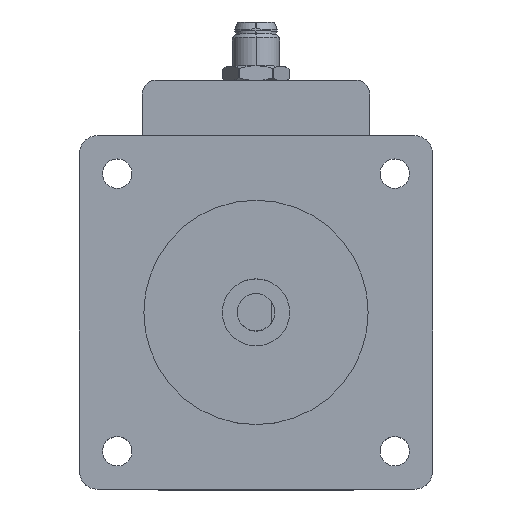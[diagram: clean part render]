
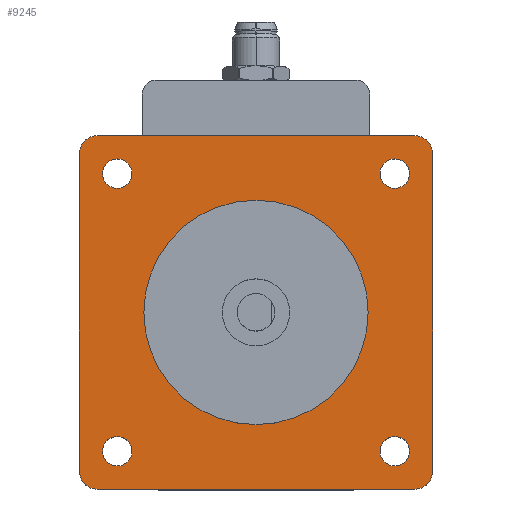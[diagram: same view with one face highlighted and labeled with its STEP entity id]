
A CAD part, top view. The second image highlights one B-rep face of the part: STEP entity #9245.
In plain terms, the highlighted planar face has unit normal (0, 0, 1).
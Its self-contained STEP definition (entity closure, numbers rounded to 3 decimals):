
#1168=VECTOR('',#12396,1.);
#1172=VECTOR('',#12405,1.);
#1175=VECTOR('',#12413,1.);
#1178=VECTOR('',#12421,1.);
#1728=LINE('',#17052,#1168);
#1732=LINE('',#17062,#1172);
#1735=LINE('',#17070,#1175);
#1738=LINE('',#17078,#1178);
#2534=VERTEX_POINT('',#17047);
#2535=VERTEX_POINT('',#17051);
#2536=VERTEX_POINT('',#17053);
#2537=VERTEX_POINT('',#17057);
#2538=VERTEX_POINT('',#17061);
#2539=VERTEX_POINT('',#17065);
#2540=VERTEX_POINT('',#17069);
#2541=VERTEX_POINT('',#17073);
#2542=VERTEX_POINT('',#17077);
#2543=VERTEX_POINT('',#17083);
#2544=VERTEX_POINT('',#17086);
#2545=VERTEX_POINT('',#17089);
#2546=VERTEX_POINT('',#17092);
#3128=CIRCLE('',#10187,19.05);
#3129=CIRCLE('',#10191,3.);
#3130=CIRCLE('',#10194,3.);
#3131=CIRCLE('',#10197,3.);
#3132=CIRCLE('',#10200,3.);
#3133=CIRCLE('',#10202,2.5);
#3134=CIRCLE('',#10204,2.5);
#3135=CIRCLE('',#10206,2.5);
#3136=CIRCLE('',#10208,2.5);
#4366=EDGE_CURVE('',#2534,#2534,#3128,.T.);
#4368=EDGE_CURVE('',#2535,#2536,#1728,.T.);
#4371=EDGE_CURVE('',#2535,#2537,#3129,.T.);
#4373=EDGE_CURVE('',#2538,#2537,#1732,.T.);
#4375=EDGE_CURVE('',#2538,#2539,#3130,.T.);
#4377=EDGE_CURVE('',#2540,#2539,#1735,.T.);
#4379=EDGE_CURVE('',#2540,#2541,#3131,.T.);
#4381=EDGE_CURVE('',#2542,#2541,#1738,.T.);
#4382=EDGE_CURVE('',#2542,#2536,#3132,.T.);
#4383=EDGE_CURVE('',#2543,#2543,#3133,.T.);
#4384=EDGE_CURVE('',#2544,#2544,#3134,.T.);
#4385=EDGE_CURVE('',#2545,#2545,#3135,.T.);
#4386=EDGE_CURVE('',#2546,#2546,#3136,.T.);
#6802=ORIENTED_EDGE('',*,*,#4366,.T.);
#6803=ORIENTED_EDGE('',*,*,#4386,.F.);
#6804=ORIENTED_EDGE('',*,*,#4385,.F.);
#6805=ORIENTED_EDGE('',*,*,#4384,.F.);
#6806=ORIENTED_EDGE('',*,*,#4383,.F.);
#6807=ORIENTED_EDGE('',*,*,#4368,.F.);
#6808=ORIENTED_EDGE('',*,*,#4371,.T.);
#6809=ORIENTED_EDGE('',*,*,#4373,.F.);
#6810=ORIENTED_EDGE('',*,*,#4375,.T.);
#6811=ORIENTED_EDGE('',*,*,#4377,.F.);
#6812=ORIENTED_EDGE('',*,*,#4379,.T.);
#6813=ORIENTED_EDGE('',*,*,#4381,.F.);
#6814=ORIENTED_EDGE('',*,*,#4382,.T.);
#7823=EDGE_LOOP('',(#6802));
#7824=EDGE_LOOP('',(#6803));
#7825=EDGE_LOOP('',(#6804));
#7826=EDGE_LOOP('',(#6805));
#7827=EDGE_LOOP('',(#6806));
#7828=EDGE_LOOP('',(#6807,#6808,#6809,#6810,#6811,#6812,#6813,#6814));
#8585=FACE_BOUND('',#7823,.T.);
#8586=FACE_BOUND('',#7824,.T.);
#8587=FACE_BOUND('',#7825,.T.);
#8588=FACE_BOUND('',#7826,.T.);
#8589=FACE_BOUND('',#7827,.T.);
#8590=FACE_BOUND('',#7828,.T.);
#9245=ADVANCED_FACE('',(#8585,#8586,#8587,#8588,#8589,#8590),#17734,.T.);
#10187=AXIS2_PLACEMENT_3D('',#17046,#12391,#12392);
#10191=AXIS2_PLACEMENT_3D('',#17058,#12401,#12402);
#10194=AXIS2_PLACEMENT_3D('',#17066,#12409,#12410);
#10197=AXIS2_PLACEMENT_3D('',#17074,#12417,#12418);
#10200=AXIS2_PLACEMENT_3D('',#17080,#12424,#12425);
#10202=AXIS2_PLACEMENT_3D('',#17082,#12428,#12429);
#10204=AXIS2_PLACEMENT_3D('',#17085,#12432,#12433);
#10206=AXIS2_PLACEMENT_3D('',#17088,#12436,#12437);
#10208=AXIS2_PLACEMENT_3D('',#17091,#12440,#12441);
#10209=AXIS2_PLACEMENT_3D('',#17093,#12442,$);
#12391=DIRECTION('',(0.,0.,-1.));
#12392=DIRECTION('',(19.05,0.,0.));
#12396=DIRECTION('',(1.,0.,0.));
#12401=DIRECTION('',(0.,0.,1.));
#12402=DIRECTION('',(3.,0.,0.));
#12405=DIRECTION('',(0.,1.,0.));
#12409=DIRECTION('',(0.,0.,1.));
#12410=DIRECTION('',(3.,0.,0.));
#12413=DIRECTION('',(-1.,0.,0.));
#12417=DIRECTION('',(0.,0.,1.));
#12418=DIRECTION('',(3.,0.,0.));
#12421=DIRECTION('',(0.,-1.,0.));
#12424=DIRECTION('',(0.,0.,1.));
#12425=DIRECTION('',(3.,0.,0.));
#12428=DIRECTION('',(0.,0.,1.));
#12429=DIRECTION('',(2.5,0.,0.));
#12432=DIRECTION('',(0.,0.,1.));
#12433=DIRECTION('',(2.5,0.,0.));
#12436=DIRECTION('',(0.,0.,1.));
#12437=DIRECTION('',(2.5,0.,0.));
#12440=DIRECTION('',(0.,0.,1.));
#12441=DIRECTION('',(2.5,0.,0.));
#12442=DIRECTION('',(0.,0.,1.));
#17046=CARTESIAN_POINT('',(0.,0.,0.));
#17047=CARTESIAN_POINT('',(19.05,0.,0.));
#17051=CARTESIAN_POINT('',(-27.,30.,0.));
#17052=CARTESIAN_POINT('',(0.,30.,0.));
#17053=CARTESIAN_POINT('',(27.,30.,0.));
#17057=CARTESIAN_POINT('',(-30.,27.,0.));
#17058=CARTESIAN_POINT('',(-27.,27.,0.));
#17061=CARTESIAN_POINT('',(-30.,-27.,0.));
#17062=CARTESIAN_POINT('',(-30.,-27.,0.));
#17065=CARTESIAN_POINT('',(-27.,-30.,0.));
#17066=CARTESIAN_POINT('',(-27.,-27.,0.));
#17069=CARTESIAN_POINT('',(27.,-30.,0.));
#17070=CARTESIAN_POINT('',(27.,-30.,0.));
#17073=CARTESIAN_POINT('',(30.,-27.,0.));
#17074=CARTESIAN_POINT('',(27.,-27.,0.));
#17077=CARTESIAN_POINT('',(30.,27.,0.));
#17078=CARTESIAN_POINT('',(30.,27.,0.));
#17080=CARTESIAN_POINT('',(27.,27.,0.));
#17082=CARTESIAN_POINT('',(-23.57,23.57,0.));
#17083=CARTESIAN_POINT('',(-21.07,23.57,0.));
#17085=CARTESIAN_POINT('',(23.57,-23.57,0.));
#17086=CARTESIAN_POINT('',(26.07,-23.57,0.));
#17088=CARTESIAN_POINT('',(23.57,23.57,0.));
#17089=CARTESIAN_POINT('',(26.07,23.57,0.));
#17091=CARTESIAN_POINT('',(-23.57,-23.57,0.));
#17092=CARTESIAN_POINT('',(-21.07,-23.57,0.));
#17093=CARTESIAN_POINT('',(0.,0.,0.));
#17734=PLANE('',#10209);
